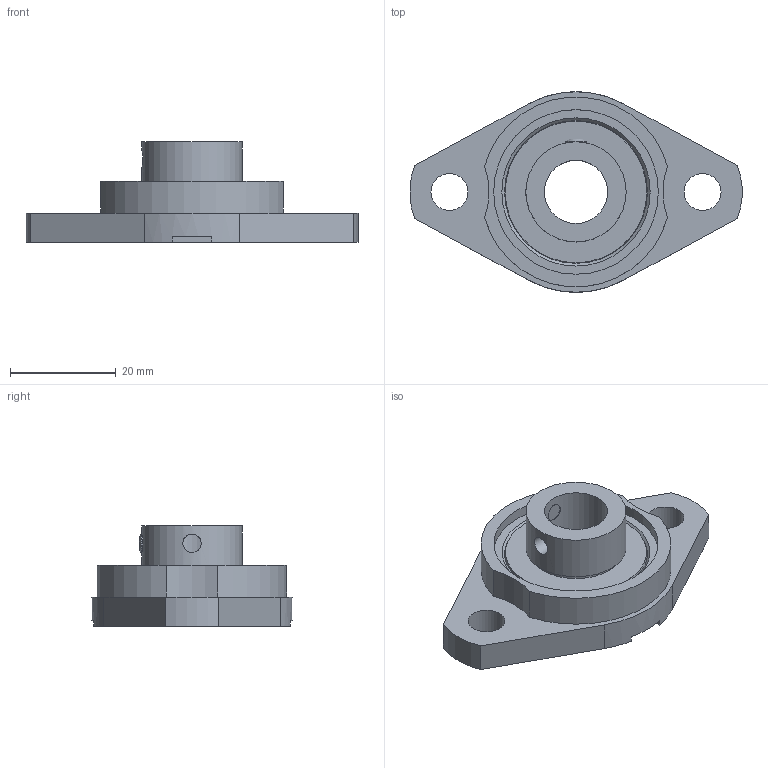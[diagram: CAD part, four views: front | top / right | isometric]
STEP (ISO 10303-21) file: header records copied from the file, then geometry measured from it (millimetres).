
FILE_DESCRIPTION((''),'2;1');
FILE_NAME('\\Ts-tgl068\j-cad-d-base\00.3DCADデータ作成フォルダ\11.エコシリーズ\MUSFL000\MUSFL001.stp','2014-11-12T09:41:25',('btec_1106_2'),(''),'Autodesk Inventor 2012','Autodesk Inventor 2012','');
FILE_SCHEMA(('AUTOMOTIVE_DESIGN { 1 0 10303 214 1 1 1 1 }'));
Length unit declared in the file: millimetre
Products named in the file (3): MUSFL000; SFL001; U001
Assembly tree (2 placements, depth 2):
  MUSFL000
    SFL001
    U001
Bounding box: 62.93 x 38 x 19 mm (x, y, z)
Volume: 12112.9 mm3; surface area: 7693.6 mm2
Topology: 2 solids, 2 shells, 74 faces, 188 edges, 123 vertices
Faces by surface type: plane 39, cylinder 30, cone 3, sphere 2
Full cylindrical faces by diameter (mm): 3.5 x1, 4 x1, 7 x2, 12 x1, 17.4 x1, 19 x1, 31.2 x1
Entity records: 2338 total; most frequent: CARTESIAN_POINT 497, DIRECTION 386, ORIENTED_EDGE 334, EDGE_CURVE 167, AXIS2_PLACEMENT_3D 146, VERTEX_POINT 117, EDGE_LOOP 104, VECTOR 94
